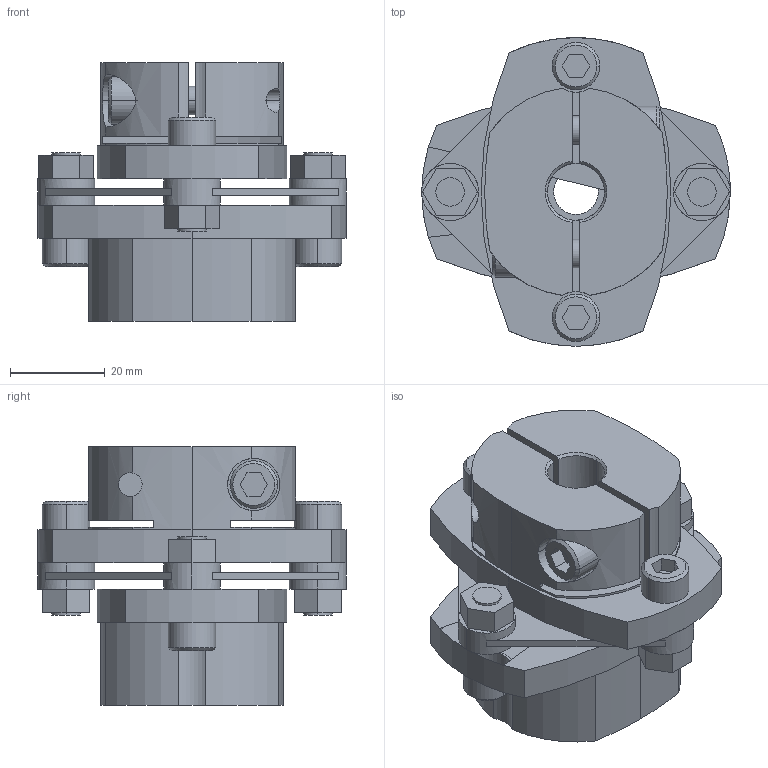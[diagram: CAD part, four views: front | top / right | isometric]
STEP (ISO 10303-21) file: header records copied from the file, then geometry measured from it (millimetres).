
FILE_DESCRIPTION((''),'2;1');
FILE_NAME('LCS-65M-11L亊12B.stp','2015-10-28T03:03:20',(''),(''),'AutoCAD STEP 2000i','AutoCAD 2000i',', , ');
FILE_SCHEMA(('CONFIG_CONTROL_DESIGN'));
Length unit declared in the file: millimetre
Products named in the file (6): LCS-65M-11L×14B; 忣兜1; LC65M-L011; LC65-B014-1; LC65-B014; LCS65-ITA
Assembly tree (5 placements, depth 2):
  LCS-65M-11L×14B
    忣兜1
    LC65M-L011
    LC65-B014-1
    LC65-B014
    LCS65-ITA
Bounding box: 65 x 65 x 54.5 mm (x, y, z)
Volume: 79999.5 mm3; surface area: 26984.1 mm2
Topology: 1 solids, 1 shells, 228 faces, 602 edges, 394 vertices
Faces by surface type: plane 115, cylinder 92, cone 21
Entity records: 7591 total; most frequent: CARTESIAN_POINT 1570, DIRECTION 1286, ORIENTED_EDGE 1204, EDGE_CURVE 602, AXIS2_PLACEMENT_3D 472, VERTEX_POINT 394, VECTOR 342, LINE 342
